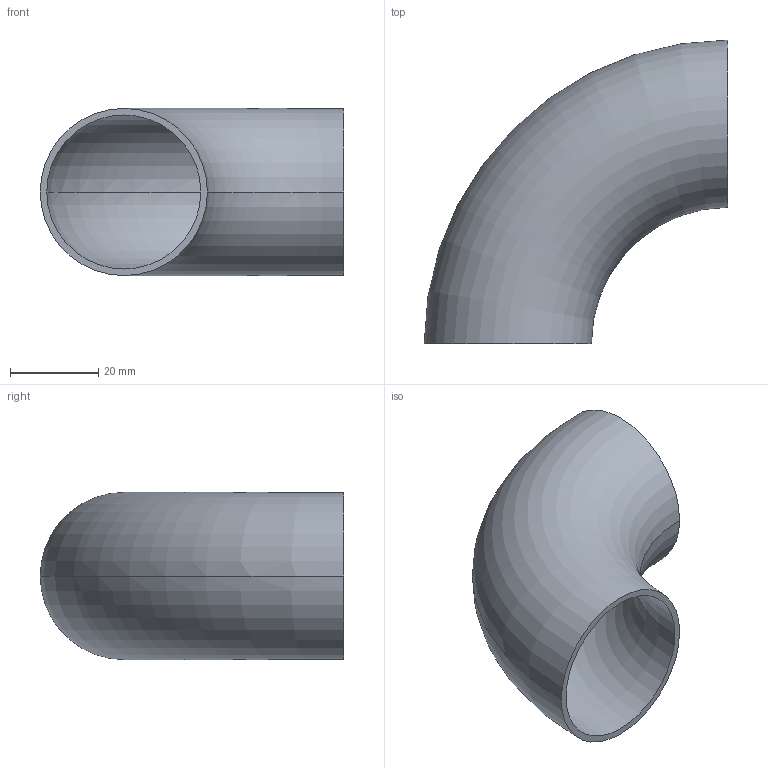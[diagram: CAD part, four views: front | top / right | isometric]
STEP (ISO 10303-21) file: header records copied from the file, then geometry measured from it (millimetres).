
FILE_DESCRIPTION (( 'STEP AP203' ), '1' );
FILE_NAME ('OT212-32-38x1_5_OSTP.step', '2020-12-16T02:15:04', ( '' ), ( '' ), 'SwSTEP 2.0', 'SolidWorks 2014', '' );
FILE_SCHEMA (( 'CONFIG_CONTROL_DESIGN' ));
Length unit declared in the file: millimetre
Products named in the file (1): OT212-32-38x1_5_OSTP
Bounding box: 69 x 69 x 38 mm (x, y, z)
Volume: 13509 mm3; surface area: 18356 mm2
Topology: 1 solids, 1 shells, 6 faces, 12 edges, 8 vertices
Faces by surface type: torus 4, plane 2
Entity records: 249 total; most frequent: DIRECTION 38, CARTESIAN_POINT 27, ORIENTED_EDGE 24, AXIS2_PLACEMENT_3D 19, CIRCLE 12, EDGE_CURVE 12, EDGE_LOOP 8, VERTEX_POINT 8
